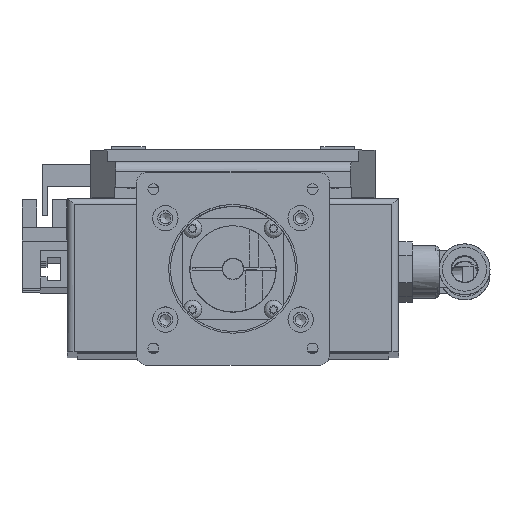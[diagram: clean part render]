
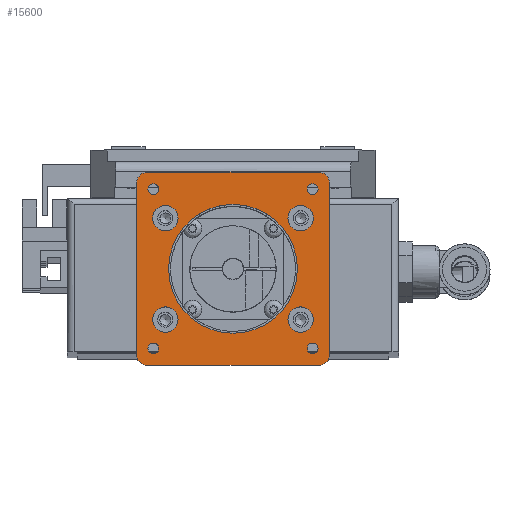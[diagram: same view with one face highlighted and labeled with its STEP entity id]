
A CAD part, top view. The second image highlights one B-rep face of the part: STEP entity #15600.
In plain terms, the highlighted planar face has unit normal (0, 0, 1).
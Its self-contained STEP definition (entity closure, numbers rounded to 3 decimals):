
#15018=CARTESIAN_POINT('',(0.0,3.,0.0));
#15019=VERTEX_POINT('',#15018);
#15026=CARTESIAN_POINT('',(0.0,54.0,0.0));
#15027=VERTEX_POINT('',#15026);
#15028=CARTESIAN_POINT('',(0.0,54.0,0.0));
#15029=DIRECTION('',(0.0,-1.0,0.0));
#15030=VECTOR('',#15029,51.0);
#15031=LINE('',#15028,#15030);
#15032=EDGE_CURVE('',#15027,#15019,#15031,.T.);
#15424=CARTESIAN_POINT('',(3.,0.0,0.0));
#15425=VERTEX_POINT('',#15424);
#15432=CARTESIAN_POINT('',(3.,3.,0.0));
#15433=DIRECTION('',(0.0,0.0,-1.0));
#15434=DIRECTION('',(-0.707,-0.707,0.0));
#15435=AXIS2_PLACEMENT_3D('',#15432,#15433,#15434);
#15436=CIRCLE('',#15435,3.0);
#15437=EDGE_CURVE('',#15425,#15019,#15436,.T.);
#15443=CARTESIAN_POINT('',(28.5,28.5,0.0));
#15444=DIRECTION('',(0.0,0.0,1.0));
#15445=DIRECTION('',(1.0,0.0,0.0));
#15446=AXIS2_PLACEMENT_3D('',#15443,#15444,#15445);
#15447=PLANE('',#15446);
#15448=ORIENTED_EDGE('',*,*,#15437,.F.);
#15449=CARTESIAN_POINT('',(54.0,0.0,0.0));
#15450=VERTEX_POINT('',#15449);
#15451=CARTESIAN_POINT('',(3.,0.0,0.0));
#15452=DIRECTION('',(1.0,0.0,0.0));
#15453=VECTOR('',#15452,51.0);
#15454=LINE('',#15451,#15453);
#15455=EDGE_CURVE('',#15425,#15450,#15454,.T.);
#15456=ORIENTED_EDGE('',*,*,#15455,.T.);
#15457=CARTESIAN_POINT('',(57.0,3.,0.0));
#15458=VERTEX_POINT('',#15457);
#15459=CARTESIAN_POINT('',(54.0,3.,0.0));
#15460=DIRECTION('',(0.0,0.0,-1.));
#15461=DIRECTION('',(0.707,-0.707,0.0));
#15462=AXIS2_PLACEMENT_3D('',#15459,#15460,#15461);
#15463=CIRCLE('',#15462,3.0);
#15464=EDGE_CURVE('',#15458,#15450,#15463,.T.);
#15465=ORIENTED_EDGE('',*,*,#15464,.F.);
#15466=CARTESIAN_POINT('',(57.,54.,0.0));
#15467=VERTEX_POINT('',#15466);
#15468=CARTESIAN_POINT('',(57.0,3.,0.0));
#15469=DIRECTION('',(0.0,1.0,0.0));
#15470=VECTOR('',#15469,51.);
#15471=LINE('',#15468,#15470);
#15472=EDGE_CURVE('',#15458,#15467,#15471,.T.);
#15473=ORIENTED_EDGE('',*,*,#15472,.T.);
#15474=CARTESIAN_POINT('',(54.,57.,0.0));
#15475=VERTEX_POINT('',#15474);
#15476=CARTESIAN_POINT('',(54.,54.,0.0));
#15477=DIRECTION('',(0.0,0.0,-1.));
#15478=DIRECTION('',(0.707,0.707,0.0));
#15479=AXIS2_PLACEMENT_3D('',#15476,#15477,#15478);
#15480=CIRCLE('',#15479,3.);
#15481=EDGE_CURVE('',#15475,#15467,#15480,.T.);
#15482=ORIENTED_EDGE('',*,*,#15481,.F.);
#15483=CARTESIAN_POINT('',(3.,57.0,0.0));
#15484=VERTEX_POINT('',#15483);
#15485=CARTESIAN_POINT('',(54.,57.,0.0));
#15486=DIRECTION('',(-1.0,0.0,0.0));
#15487=VECTOR('',#15486,51.);
#15488=LINE('',#15485,#15487);
#15489=EDGE_CURVE('',#15475,#15484,#15488,.T.);
#15490=ORIENTED_EDGE('',*,*,#15489,.T.);
#15491=CARTESIAN_POINT('',(3.,54.0,0.0));
#15492=DIRECTION('',(0.0,0.0,-1.0));
#15493=DIRECTION('',(-0.707,0.707,0.0));
#15494=AXIS2_PLACEMENT_3D('',#15491,#15492,#15493);
#15495=CIRCLE('',#15494,3.0);
#15496=EDGE_CURVE('',#15027,#15484,#15495,.T.);
#15497=ORIENTED_EDGE('',*,*,#15496,.F.);
#15498=ORIENTED_EDGE('',*,*,#15032,.T.);
#15499=EDGE_LOOP('',(#15448,#15456,#15465,#15473,#15482,#15490,#15497,#15498));
#15500=FACE_OUTER_BOUND('',#15499,.T.);
#15501=CARTESIAN_POINT('',(53.671,4.95,0.0));
#15502=VERTEX_POINT('',#15501);
#15503=CARTESIAN_POINT('',(52.05,4.95,0.0));
#15504=DIRECTION('',(0.0,0.0,-1.0));
#15505=DIRECTION('',(1.0,0.0,0.0));
#15506=AXIS2_PLACEMENT_3D('',#15503,#15504,#15505);
#15507=CIRCLE('',#15506,1.621);
#15508=EDGE_CURVE('',#15502,#15502,#15507,.T.);
#15509=ORIENTED_EDGE('',*,*,#15508,.T.);
#15510=EDGE_LOOP('',(#15509));
#15511=FACE_BOUND('',#15510,.T.);
#15512=CARTESIAN_POINT('',(6.571,52.05,0.0));
#15513=VERTEX_POINT('',#15512);
#15514=CARTESIAN_POINT('',(4.95,52.05,0.0));
#15515=DIRECTION('',(0.0,0.0,-1.0));
#15516=DIRECTION('',(1.0,0.0,0.0));
#15517=AXIS2_PLACEMENT_3D('',#15514,#15515,#15516);
#15518=CIRCLE('',#15517,1.621);
#15519=EDGE_CURVE('',#15513,#15513,#15518,.T.);
#15520=ORIENTED_EDGE('',*,*,#15519,.T.);
#15521=EDGE_LOOP('',(#15520));
#15522=FACE_BOUND('',#15521,.T.);
#15523=CARTESIAN_POINT('',(53.671,52.05,0.0));
#15524=VERTEX_POINT('',#15523);
#15525=CARTESIAN_POINT('',(52.05,52.05,0.0));
#15526=DIRECTION('',(0.0,0.0,-1.0));
#15527=DIRECTION('',(1.0,0.0,0.0));
#15528=AXIS2_PLACEMENT_3D('',#15525,#15526,#15527);
#15529=CIRCLE('',#15528,1.621);
#15530=EDGE_CURVE('',#15524,#15524,#15529,.T.);
#15531=ORIENTED_EDGE('',*,*,#15530,.T.);
#15532=EDGE_LOOP('',(#15531));
#15533=FACE_BOUND('',#15532,.T.);
#15534=CARTESIAN_POINT('',(6.571,4.95,0.0));
#15535=VERTEX_POINT('',#15534);
#15536=CARTESIAN_POINT('',(4.95,4.95,0.0));
#15537=DIRECTION('',(0.0,0.0,-1.0));
#15538=DIRECTION('',(1.0,0.0,0.0));
#15539=AXIS2_PLACEMENT_3D('',#15536,#15537,#15538);
#15540=CIRCLE('',#15539,1.621);
#15541=EDGE_CURVE('',#15535,#15535,#15540,.T.);
#15542=ORIENTED_EDGE('',*,*,#15541,.T.);
#15543=EDGE_LOOP('',(#15542));
#15544=FACE_BOUND('',#15543,.T.);
#15545=CARTESIAN_POINT('',(52.25,13.5,0.0));
#15546=VERTEX_POINT('',#15545);
#15547=CARTESIAN_POINT('',(48.5,13.5,0.0));
#15548=DIRECTION('',(0.0,0.0,-1.0));
#15549=DIRECTION('',(1.0,0.0,0.0));
#15550=AXIS2_PLACEMENT_3D('',#15547,#15548,#15549);
#15551=CIRCLE('',#15550,3.75);
#15552=EDGE_CURVE('',#15546,#15546,#15551,.T.);
#15553=ORIENTED_EDGE('',*,*,#15552,.T.);
#15554=EDGE_LOOP('',(#15553));
#15555=FACE_BOUND('',#15554,.T.);
#15556=CARTESIAN_POINT('',(12.25,43.5,0.0));
#15557=VERTEX_POINT('',#15556);
#15558=CARTESIAN_POINT('',(8.5,43.5,0.0));
#15559=DIRECTION('',(0.0,0.0,-1.0));
#15560=DIRECTION('',(1.0,0.0,0.0));
#15561=AXIS2_PLACEMENT_3D('',#15558,#15559,#15560);
#15562=CIRCLE('',#15561,3.75);
#15563=EDGE_CURVE('',#15557,#15557,#15562,.T.);
#15564=ORIENTED_EDGE('',*,*,#15563,.T.);
#15565=EDGE_LOOP('',(#15564));
#15566=FACE_BOUND('',#15565,.T.);
#15567=CARTESIAN_POINT('',(12.25,13.5,0.0));
#15568=VERTEX_POINT('',#15567);
#15569=CARTESIAN_POINT('',(8.5,13.5,0.0));
#15570=DIRECTION('',(0.0,0.0,-1.0));
#15571=DIRECTION('',(1.0,0.0,0.0));
#15572=AXIS2_PLACEMENT_3D('',#15569,#15570,#15571);
#15573=CIRCLE('',#15572,3.75);
#15574=EDGE_CURVE('',#15568,#15568,#15573,.T.);
#15575=ORIENTED_EDGE('',*,*,#15574,.T.);
#15576=EDGE_LOOP('',(#15575));
#15577=FACE_BOUND('',#15576,.T.);
#15578=CARTESIAN_POINT('',(52.25,43.5,0.0));
#15579=VERTEX_POINT('',#15578);
#15580=CARTESIAN_POINT('',(48.5,43.5,0.0));
#15581=DIRECTION('',(0.0,0.0,-1.0));
#15582=DIRECTION('',(1.0,0.0,0.0));
#15583=AXIS2_PLACEMENT_3D('',#15580,#15581,#15582);
#15584=CIRCLE('',#15583,3.75);
#15585=EDGE_CURVE('',#15579,#15579,#15584,.T.);
#15586=ORIENTED_EDGE('',*,*,#15585,.T.);
#15587=EDGE_LOOP('',(#15586));
#15588=FACE_BOUND('',#15587,.T.);
#15589=CARTESIAN_POINT('',(47.55,28.5,0.0));
#15590=VERTEX_POINT('',#15589);
#15591=CARTESIAN_POINT('',(28.5,28.5,0.0));
#15592=DIRECTION('',(0.0,0.0,-1.0));
#15593=DIRECTION('',(-1.0,0.0,0.0));
#15594=AXIS2_PLACEMENT_3D('',#15591,#15592,#15593);
#15595=CIRCLE('',#15594,19.05);
#15596=EDGE_CURVE('',#15590,#15590,#15595,.T.);
#15597=ORIENTED_EDGE('',*,*,#15596,.T.);
#15598=EDGE_LOOP('',(#15597));
#15599=FACE_BOUND('',#15598,.T.);
#15600=ADVANCED_FACE('',(#15500,#15511,#15522,#15533,#15544,#15555,#15566,#15577,#15588,#15599),#15447,.T.);
